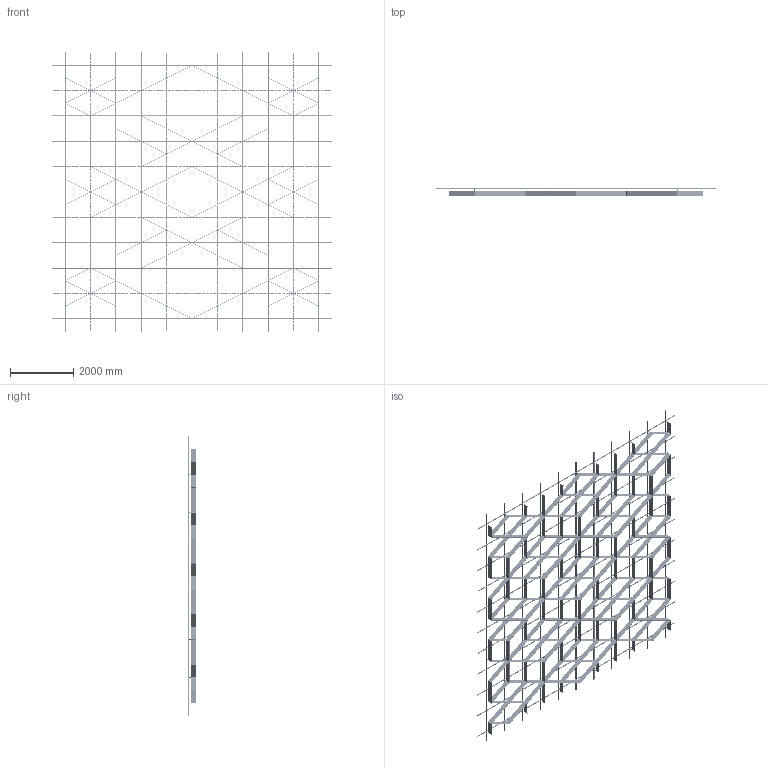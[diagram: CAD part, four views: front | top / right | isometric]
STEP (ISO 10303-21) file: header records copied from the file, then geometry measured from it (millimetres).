
FILE_DESCRIPTION (( 'STEP AP203' ), '1' );
FILE_NAME ('OPT_Var24.STEP', '2024-04-26T09:00:14', ( '' ), ( '' ), 'SwSTEP 2.0', 'SolidWorks 2020', '' );
FILE_SCHEMA (( 'CONFIG_CONTROL_DESIGN' ));
Products named in the file (5): SS.SEMA.2400 - Ñèìà-ïðîôèëü; Ñèñòåìà â çîíå 8000õ8000; Varp24; SS.SEMA.2400 - Ñèìà-ïðîôèëü — îáðåçàí 1600; OPT_Var24
Assembly tree (90 placements, depth 3):
  OPT_Var24
    Ñèñòåìà â çîíå 8000õ8000
      SS.SEMA.2400 - Ñèìà-ïðîôèëü  x66
      SS.SEMA.2400 - Ñèìà-ïðîôèëü — îáðåçàí 1600  x22
    Varp24
Bounding box: 8800 x 253 x 8800 mm (x, y, z)
Volume: 221132278.2 mm3; surface area: 87956554.1 mm2
Topology: 808 solids, 808 shells, 20652 faces, 55700 edges, 36664 vertices
Faces by surface type: cylinder 12874, plane 7778
Entity records: 116847 total; most frequent: CARTESIAN_POINT 37410, ORIENTED_EDGE 18248, DIRECTION 10658, EDGE_CURVE 9124, B_SPLINE_CURVE_WITH_KNOTS 6104, VERTEX_POINT 6072, AXIS2_PLACEMENT_3D 5080, EDGE_LOOP 4658
